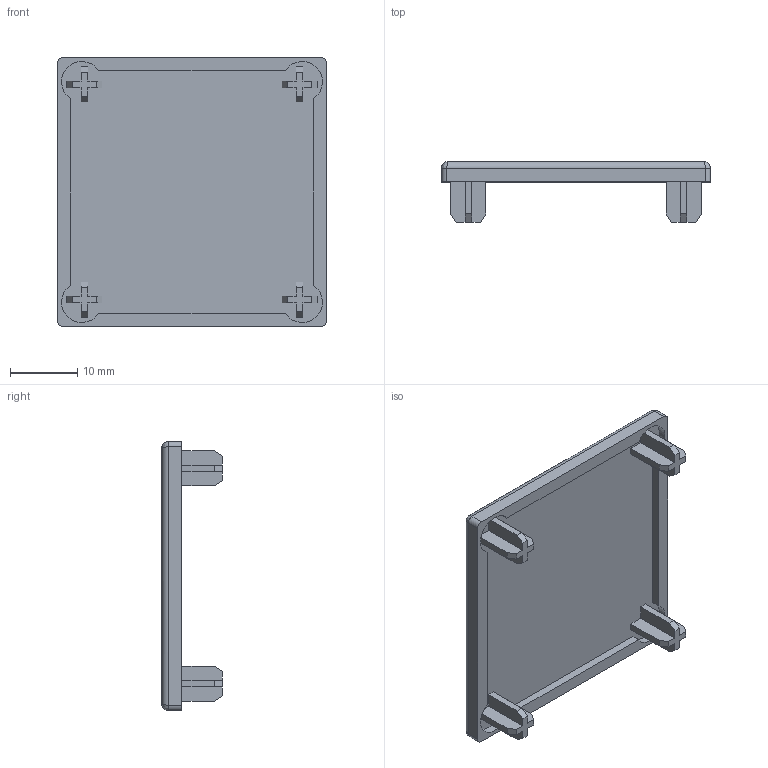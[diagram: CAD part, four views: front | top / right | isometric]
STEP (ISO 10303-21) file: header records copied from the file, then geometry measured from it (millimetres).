
FILE_DESCRIPTION(/* description */ ('Profile End Cap'),/* implementation_level */ '2;1');
FILE_NAME(/* name */ 'PEC-40-40.STEP',/* time_stamp */ '2026-02-10T15:16:05-05:00',/* author */ ('Design2'),/* organization */ ('CCS Design LLC'),/* preprocessor_version */ 'ST-DEVELOPER v20',/* originating_system */ 'Autodesk Inventor 2025',/* authorisation */ '');
FILE_SCHEMA (('AUTOMOTIVE_DESIGN { 1 0 10303 214 3 1 1 }'));
Length unit declared in the file: inch
Products named in the file (1): PEC-40-40
Bounding box: 40 x 9 x 40 mm (x, y, z)
Volume: 3426.7 mm3; surface area: 4365.7 mm2
Topology: 1 solids, 1 shells, 95 faces, 256 edges, 164 vertices
Faces by surface type: plane 79, cylinder 12, bspline 4
Entity records: 3043 total; most frequent: CARTESIAN_POINT 628, ORIENTED_EDGE 504, DIRECTION 460, EDGE_CURVE 252, LINE 228, VECTOR 228, VERTEX_POINT 164, AXIS2_PLACEMENT_3D 116
